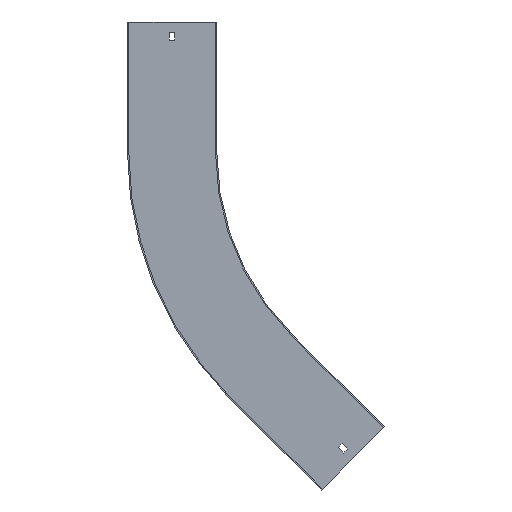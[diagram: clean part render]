
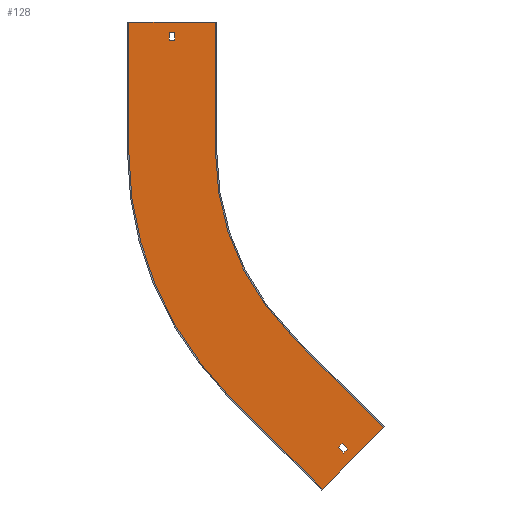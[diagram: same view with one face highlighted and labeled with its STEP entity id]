
A CAD part, front view. The second image highlights one B-rep face of the part: STEP entity #128.
In plain terms, the highlighted planar face has unit normal (0, -1, 0).
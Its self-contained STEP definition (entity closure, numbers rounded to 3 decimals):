
#1 = EDGE_CURVE ( 'NONE', #465, #595, #239, .T. ) ;
#3 = CARTESIAN_POINT ( 'NONE',  ( -401.5, -1.5, 150. ) ) ;
#4 = CIRCLE ( 'NONE', #497, 400. ) ;
#10 = CARTESIAN_POINT ( 'NONE',  ( -353.25, -1.5, 138. ) ) ;
#21 = DIRECTION ( 'NONE',  ( 0., 0., 1. ) ) ;
#22 = CARTESIAN_POINT ( 'NONE',  ( -249.785, -1.5, -249.785 ) ) ;
#32 = ORIENTED_EDGE ( 'NONE', *, *, #838, .F. ) ;
#40 = VERTEX_POINT ( 'NONE', #340 ) ;
#47 = VECTOR ( 'NONE', #637, 1000. ) ;
#51 = DIRECTION ( 'NONE',  ( 0., 0., -1. ) ) ;
#60 = EDGE_CURVE ( 'NONE', #744, #652, #250, .T. ) ;
#61 = DIRECTION ( 'NONE',  ( 1., 0., 0. ) ) ;
#62 = AXIS2_PLACEMENT_3D ( 'NONE', #280, #361, #636 ) ;
#66 = EDGE_CURVE ( 'NONE', #712, #202, #291, .T. ) ;
#69 = DIRECTION ( 'NONE',  ( -0.707, 0., 0.707 ) ) ;
#70 = LINE ( 'NONE', #3, #330 ) ;
#71 = ORIENTED_EDGE ( 'NONE', *, *, #486, .F. ) ;
#76 = CARTESIAN_POINT ( 'NONE',  ( -245.189, -1.5, -245.189 ) ) ;
#96 = ORIENTED_EDGE ( 'NONE', *, *, #201, .F. ) ;
#114 = DIRECTION ( 'NONE',  ( 0.707, 0., 0.707 ) ) ;
#118 = CARTESIAN_POINT ( 'NONE',  ( -212.132, -1.5, -212.132 ) ) ;
#125 = VECTOR ( 'NONE', #500, 1000. ) ;
#128 = ADVANCED_FACE ( 'NONE', ( #508, #167, #823 ), #344, .T. ) ;
#140 = ORIENTED_EDGE ( 'NONE', *, *, #268, .F. ) ;
#149 = CARTESIAN_POINT ( 'NONE',  ( -400., -1.5, 150. ) ) ;
#151 = VERTEX_POINT ( 'NONE', #10 ) ;
#153 = ORIENTED_EDGE ( 'NONE', *, *, #1, .T. ) ;
#167 = FACE_OUTER_BOUND ( 'NONE', #441, .T. ) ;
#175 = LINE ( 'NONE', #377, #324 ) ;
#177 = LINE ( 'NONE', #186, #482 ) ;
#186 = CARTESIAN_POINT ( 'NONE',  ( -346.75, -1.5, 0. ) ) ;
#188 = VECTOR ( 'NONE', #849, 1000. ) ;
#197 = VECTOR ( 'NONE', #376, 1000. ) ;
#201 = EDGE_CURVE ( 'NONE', #478, #785, #480, .T. ) ;
#202 = VERTEX_POINT ( 'NONE', #149 ) ;
#216 = EDGE_CURVE ( 'NONE', #652, #712, #4, .T. ) ;
#236 = LINE ( 'NONE', #414, #47 ) ;
#239 = LINE ( 'NONE', #575, #188 ) ;
#244 = ORIENTED_EDGE ( 'NONE', *, *, #272, .F. ) ;
#248 = CARTESIAN_POINT ( 'NONE',  ( -353.25, -1.5, 0. ) ) ;
#250 = LINE ( 'NONE', #702, #125 ) ;
#258 = AXIS2_PLACEMENT_3D ( 'NONE', #694, #810, #474 ) ;
#268 = EDGE_CURVE ( 'NONE', #670, #478, #339, .T. ) ;
#272 = EDGE_CURVE ( 'NONE', #674, #689, #413, .T. ) ;
#278 = DIRECTION ( 'NONE',  ( 0.707, 0., -0.707 ) ) ;
#280 = CARTESIAN_POINT ( 'NONE',  ( 0., -1.5, 0. ) ) ;
#291 = LINE ( 'NONE', #418, #392 ) ;
#322 = ORIENTED_EDGE ( 'NONE', *, *, #728, .T. ) ;
#324 = VECTOR ( 'NONE', #436, 1000. ) ;
#330 = VECTOR ( 'NONE', #61, 1000. ) ;
#339 = LINE ( 'NONE', #804, #653 ) ;
#340 = CARTESIAN_POINT ( 'NONE',  ( -106.066, -1.5, -318.198 ) ) ;
#343 = CARTESIAN_POINT ( 'NONE',  ( 0., -1.5, 0. ) ) ;
#344 = PLANE ( 'NONE',  #62 ) ;
#345 = ORIENTED_EDGE ( 'NONE', *, *, #216, .F. ) ;
#347 = CARTESIAN_POINT ( 'NONE',  ( -300., -1.5, 0. ) ) ;
#349 = CARTESIAN_POINT ( 'NONE',  ( -300., -1.5, 150. ) ) ;
#357 = CARTESIAN_POINT ( 'NONE',  ( -158.569, -1.5, -341.002 ) ) ;
#361 = DIRECTION ( 'NONE',  ( 0., -1., 0. ) ) ;
#362 = ORIENTED_EDGE ( 'NONE', *, *, #791, .F. ) ;
#373 = ORIENTED_EDGE ( 'NONE', *, *, #651, .T. ) ;
#376 = DIRECTION ( 'NONE',  ( 0.707, 0., -0.707 ) ) ;
#377 = CARTESIAN_POINT ( 'NONE',  ( 0., -1.5, 138. ) ) ;
#378 = LINE ( 'NONE', #118, #197 ) ;
#384 = EDGE_CURVE ( 'NONE', #689, #767, #576, .T. ) ;
#391 = CARTESIAN_POINT ( 'NONE',  ( -153.973, -1.5, -336.406 ) ) ;
#392 = VECTOR ( 'NONE', #21, 1000. ) ;
#397 = DIRECTION ( 'NONE',  ( 0., 0., -1. ) ) ;
#402 = LINE ( 'NONE', #76, #671 ) ;
#413 = LINE ( 'NONE', #22, #621 ) ;
#414 = CARTESIAN_POINT ( 'NONE',  ( 91.217, -1.5, -91.217 ) ) ;
#418 = CARTESIAN_POINT ( 'NONE',  ( -400., -1.5, 0. ) ) ;
#432 = ORIENTED_EDGE ( 'NONE', *, *, #540, .F. ) ;
#436 = DIRECTION ( 'NONE',  ( 1., 0., 0. ) ) ;
#437 = EDGE_LOOP ( 'NONE', ( #373, #322, #153, #841 ) ) ;
#441 = EDGE_LOOP ( 'NONE', ( #512, #662, #345, #682, #32, #362, #96, #140 ) ) ;
#462 = CARTESIAN_POINT ( 'NONE',  ( -147.609, -1.5, -342.77 ) ) ;
#465 = VERTEX_POINT ( 'NONE', #488 ) ;
#474 = DIRECTION ( 'NONE',  ( 0., 0., -1. ) ) ;
#478 = VERTEX_POINT ( 'NONE', #347 ) ;
#480 = CIRCLE ( 'NONE', #258, 300. ) ;
#482 = VECTOR ( 'NONE', #51, 1000. ) ;
#486 = EDGE_CURVE ( 'NONE', #845, #674, #236, .T. ) ;
#488 = CARTESIAN_POINT ( 'NONE',  ( -346.75, -1.5, 129. ) ) ;
#497 = AXIS2_PLACEMENT_3D ( 'NONE', #343, #624, #397 ) ;
#500 = DIRECTION ( 'NONE',  ( -0.707, 0., 0.707 ) ) ;
#501 = ORIENTED_EDGE ( 'NONE', *, *, #384, .F. ) ;
#508 = FACE_BOUND ( 'NONE', #661, .T. ) ;
#512 = ORIENTED_EDGE ( 'NONE', *, *, #856, .F. ) ;
#526 = CARTESIAN_POINT ( 'NONE',  ( -105.005, -1.5, -317.137 ) ) ;
#533 = DIRECTION ( 'NONE',  ( -0.707, 0., -0.707 ) ) ;
#540 = EDGE_CURVE ( 'NONE', #767, #845, #402, .T. ) ;
#545 = VERTEX_POINT ( 'NONE', #654 ) ;
#559 = DIRECTION ( 'NONE',  ( 0., 0., -1. ) ) ;
#575 = CARTESIAN_POINT ( 'NONE',  ( 0., -1.5, 129. ) ) ;
#576 = LINE ( 'NONE', #620, #821 ) ;
#595 = VERTEX_POINT ( 'NONE', #801 ) ;
#612 = CARTESIAN_POINT ( 'NONE',  ( -176.777, -1.5, -388.909 ) ) ;
#620 = CARTESIAN_POINT ( 'NONE',  ( 97.581, -1.5, -97.581 ) ) ;
#621 = VECTOR ( 'NONE', #278, 1000. ) ;
#624 = DIRECTION ( 'NONE',  ( 0., 1., 0. ) ) ;
#633 = CARTESIAN_POINT ( 'NONE',  ( -152.205, -1.5, -347.366 ) ) ;
#636 = DIRECTION ( 'NONE',  ( 0., 0., -1. ) ) ;
#637 = DIRECTION ( 'NONE',  ( -0.707, 0., -0.707 ) ) ;
#638 = DIRECTION ( 'NONE',  ( 0., 0., 1. ) ) ;
#651 = EDGE_CURVE ( 'NONE', #151, #545, #175, .T. ) ;
#652 = VERTEX_POINT ( 'NONE', #842 ) ;
#653 = VECTOR ( 'NONE', #559, 1000. ) ;
#654 = CARTESIAN_POINT ( 'NONE',  ( -346.75, -1.5, 138. ) ) ;
#661 = EDGE_LOOP ( 'NONE', ( #432, #501, #244, #71 ) ) ;
#662 = ORIENTED_EDGE ( 'NONE', *, *, #66, .F. ) ;
#670 = VERTEX_POINT ( 'NONE', #349 ) ;
#671 = VECTOR ( 'NONE', #69, 1000. ) ;
#674 = VERTEX_POINT ( 'NONE', #357 ) ;
#682 = ORIENTED_EDGE ( 'NONE', *, *, #60, .F. ) ;
#689 = VERTEX_POINT ( 'NONE', #633 ) ;
#694 = CARTESIAN_POINT ( 'NONE',  ( 0., -1.5, 0. ) ) ;
#702 = CARTESIAN_POINT ( 'NONE',  ( -176.777, -1.5, -388.909 ) ) ;
#709 = CARTESIAN_POINT ( 'NONE',  ( -400., -1.5, 0. ) ) ;
#712 = VERTEX_POINT ( 'NONE', #709 ) ;
#720 = EDGE_CURVE ( 'NONE', #595, #151, #851, .T. ) ;
#724 = LINE ( 'NONE', #526, #846 ) ;
#728 = EDGE_CURVE ( 'NONE', #545, #465, #177, .T. ) ;
#744 = VERTEX_POINT ( 'NONE', #612 ) ;
#767 = VERTEX_POINT ( 'NONE', #462 ) ;
#785 = VERTEX_POINT ( 'NONE', #848 ) ;
#791 = EDGE_CURVE ( 'NONE', #785, #40, #378, .T. ) ;
#801 = CARTESIAN_POINT ( 'NONE',  ( -353.25, -1.5, 129. ) ) ;
#804 = CARTESIAN_POINT ( 'NONE',  ( -300., -1.5, 150. ) ) ;
#810 = DIRECTION ( 'NONE',  ( 0., -1., 0. ) ) ;
#821 = VECTOR ( 'NONE', #114, 1000. ) ;
#823 = FACE_BOUND ( 'NONE', #437, .T. ) ;
#838 = EDGE_CURVE ( 'NONE', #40, #744, #724, .T. ) ;
#841 = ORIENTED_EDGE ( 'NONE', *, *, #720, .T. ) ;
#842 = CARTESIAN_POINT ( 'NONE',  ( -282.843, -1.5, -282.843 ) ) ;
#845 = VERTEX_POINT ( 'NONE', #391 ) ;
#846 = VECTOR ( 'NONE', #533, 1000. ) ;
#848 = CARTESIAN_POINT ( 'NONE',  ( -212.132, -1.5, -212.132 ) ) ;
#849 = DIRECTION ( 'NONE',  ( -1., 0., 0. ) ) ;
#851 = LINE ( 'NONE', #248, #859 ) ;
#856 = EDGE_CURVE ( 'NONE', #202, #670, #70, .T. ) ;
#859 = VECTOR ( 'NONE', #638, 1000. ) ;
